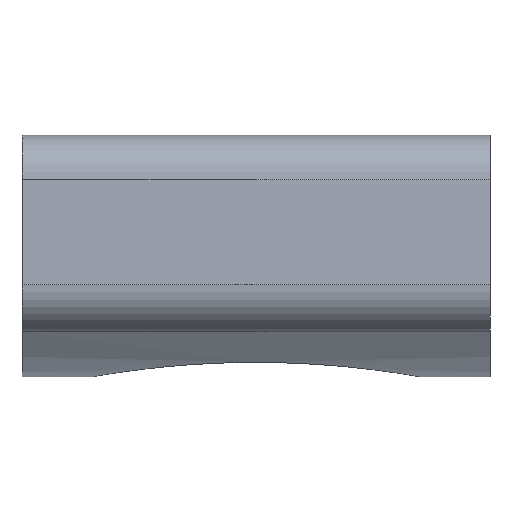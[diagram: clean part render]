
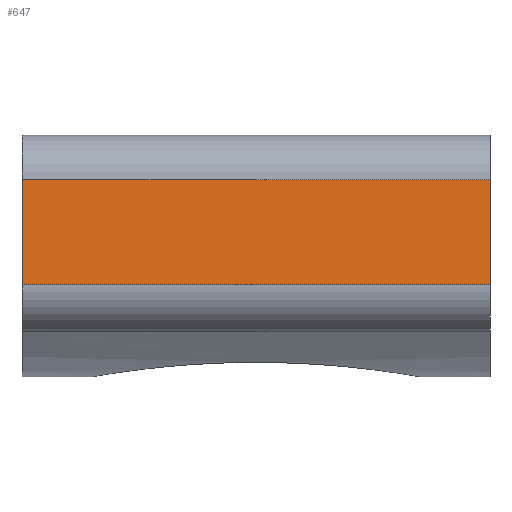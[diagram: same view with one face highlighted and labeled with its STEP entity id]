
A CAD part, front view. The second image highlights one B-rep face of the part: STEP entity #647.
In plain terms, the highlighted planar face has unit normal (0, -0.999, 0.05).
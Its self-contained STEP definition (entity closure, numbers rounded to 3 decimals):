
#20 = ORIENTED_EDGE ( 'NONE', *, *, #458, .F. ) ;
#149 = AXIS2_PLACEMENT_3D ( 'NONE', #567, #432, #360 ) ;
#156 = VECTOR ( 'NONE', #261, 1000. ) ;
#195 = LINE ( 'NONE', #287, #514 ) ;
#207 = DIRECTION ( 'NONE',  ( 0., -0.05, -0.999 ) ) ;
#208 = VERTEX_POINT ( 'NONE', #271 ) ;
#211 = CARTESIAN_POINT ( 'NONE',  ( 5., -6.835, 1.969 ) ) ;
#230 = VERTEX_POINT ( 'NONE', #231 ) ;
#231 = CARTESIAN_POINT ( 'NONE',  ( 5., -6.835, 1.969 ) ) ;
#242 = LINE ( 'NONE', #530, #416 ) ;
#261 = DIRECTION ( 'NONE',  ( -1., 0., 0. ) ) ;
#270 = CARTESIAN_POINT ( 'NONE',  ( 5., -6.835, 1.969 ) ) ;
#271 = CARTESIAN_POINT ( 'NONE',  ( -5., -6.835, 1.969 ) ) ;
#276 = VERTEX_POINT ( 'NONE', #593 ) ;
#287 = CARTESIAN_POINT ( 'NONE',  ( -5., -6.835, 1.969 ) ) ;
#292 = DIRECTION ( 'NONE',  ( 0., -0.05, -0.999 ) ) ;
#335 = EDGE_CURVE ( '??2', #276, #619, #242, .T. ) ;
#360 = DIRECTION ( 'NONE',  ( 0., 0.05, 0.999 ) ) ;
#401 = EDGE_LOOP ( 'NONE', ( #742, #404, #20, #508 ) ) ;
#404 = ORIENTED_EDGE ( 'NONE', *, *, #448, .F. ) ;
#411 = CARTESIAN_POINT ( 'NONE',  ( -5., -6.723, 4.214 ) ) ;
#416 = VECTOR ( 'NONE', #563, 1000. ) ;
#432 = DIRECTION ( 'NONE',  ( 0., 0.999, -0.05 ) ) ;
#443 = EDGE_CURVE ( 'NONE', #619, #208, #195, .T. ) ;
#448 = EDGE_CURVE ( '??22', #230, #208, #674, .T. ) ;
#458 = EDGE_CURVE ( '??1', #276, #230, #800, .T. ) ;
#508 = ORIENTED_EDGE ( 'NONE', *, *, #335, .T. ) ;
#514 = VECTOR ( 'NONE', #292, 1000. ) ;
#530 = CARTESIAN_POINT ( 'NONE',  ( 5., -6.723, 4.214 ) ) ;
#563 = DIRECTION ( 'NONE',  ( -1., 0., 0. ) ) ;
#567 = CARTESIAN_POINT ( 'NONE',  ( 5., -6.835, 1.969 ) ) ;
#593 = CARTESIAN_POINT ( 'NONE',  ( 5., -6.723, 4.214 ) ) ;
#612 = FACE_OUTER_BOUND ( 'NONE', #401, .T. ) ;
#619 = VERTEX_POINT ( 'NONE', #411 ) ;
#630 = PLANE ( 'NONE',  #149 ) ;
#647 = ADVANCED_FACE ( 'NONE', ( #612 ), #630, .F. ) ;
#656 = VECTOR ( 'NONE', #207, 1000. ) ;
#674 = LINE ( 'NONE', #270, #156 ) ;
#742 = ORIENTED_EDGE ( 'NONE', *, *, #443, .T. ) ;
#800 = LINE ( 'NONE', #211, #656 ) ;
